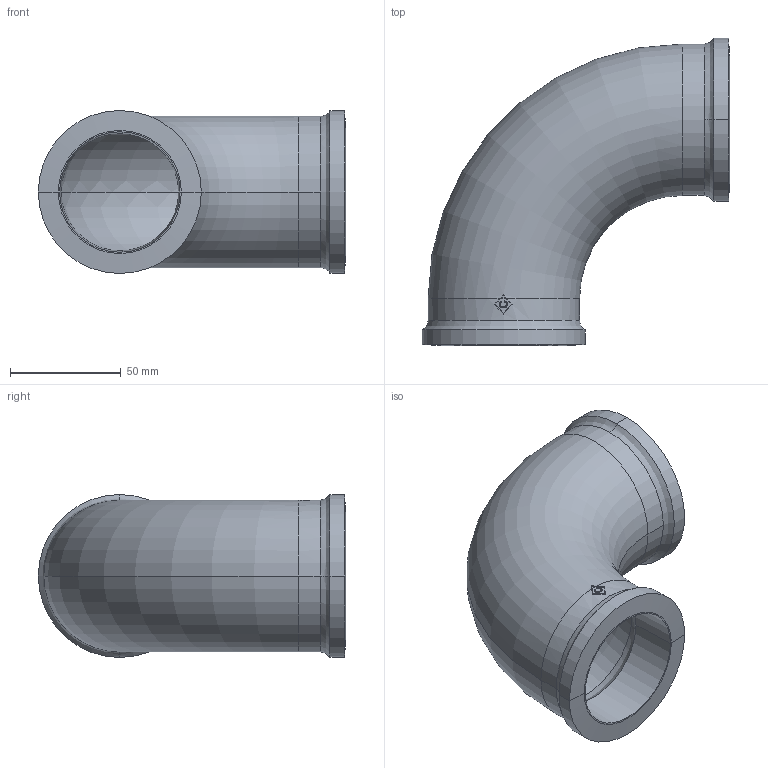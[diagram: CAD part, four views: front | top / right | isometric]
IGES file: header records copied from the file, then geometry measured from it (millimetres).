
Global section: file name: No Iges File Name specified; native system: AutoDesk Inventor R12.0; preprocessor: AutoDesk Inventor Iges Exporter R12.0; date: 20090917.095857; units: millimetre
Bounding box: 138.8 x 138.8 x 73.6 mm (x, y, z)
Volume: 183334.4 mm3; surface area: 71956 mm2
Topology: 1 solids, 1 shells, 51 faces, 131 edges, 83 vertices
Faces by surface type: bspline 14, plane 12, cylinder 11, revolution 6, torus 4, cone 4
